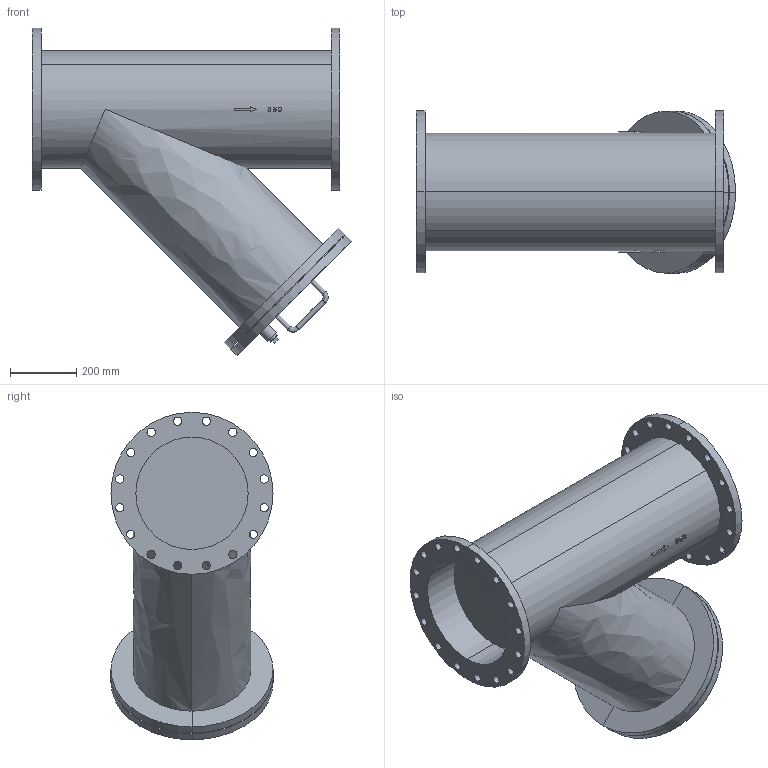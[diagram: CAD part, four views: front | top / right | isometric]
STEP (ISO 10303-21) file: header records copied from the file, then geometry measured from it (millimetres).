
FILE_DESCRIPTION( (''), '2;1');
FILE_NAME ('PC1056.7176.SY-13(350A)_27867.stp','2024-08-05T17:54:29',(''),(''),'spGate 19.8.4 (****-****-****-****)','','');
FILE_SCHEMA (('AUTOMOTIVE_DESIGN'));
Length unit declared in the file: millimetre
Products named in the file (12): Assembly; SY13(350A)本体P; 350Aカバー; PC1056-prt2; PC1056-prt3; PC1056-prt4; PC1056-prt5; PC1056-prt6; 350A取っ手_M6; 350A取っ手_M7; 350A取っ手_M8; プラグ　20A
Assembly tree (19 placements, depth 2):
  Assembly
    SY13(350A)本体P
    350Aカバー
    PC1056-prt2  x2
    PC1056-prt3  x2
    PC1056-prt4  x2
    PC1056-prt5  x2
    PC1056-prt6  x2
    350A取っ手_M6  x2
    350A取っ手_M7  x2
    350A取っ手_M8  x2
    プラグ　20A
Bounding box: 965.19 x 490 x 990.19 mm (x, y, z)
Volume: 142125527.2 mm3; surface area: 3133715.6 mm2
Topology: 9 solids, 9 shells, 234 faces, 574 edges, 387 vertices
Faces by surface type: cylinder 118, plane 63, bspline 53
Entity records: 14717 total; most frequent: CARTESIAN_POINT 5053, ORIENTED_EDGE 1076, DIRECTION 1030, COLOUR_RGB 767, PRESENTATION_STYLE_ASSIGNMENT 767, STYLED_ITEM 767, DRAUGHTING_PRE_DEFINED_CURVE_FONT 543, CURVE_STYLE 543
